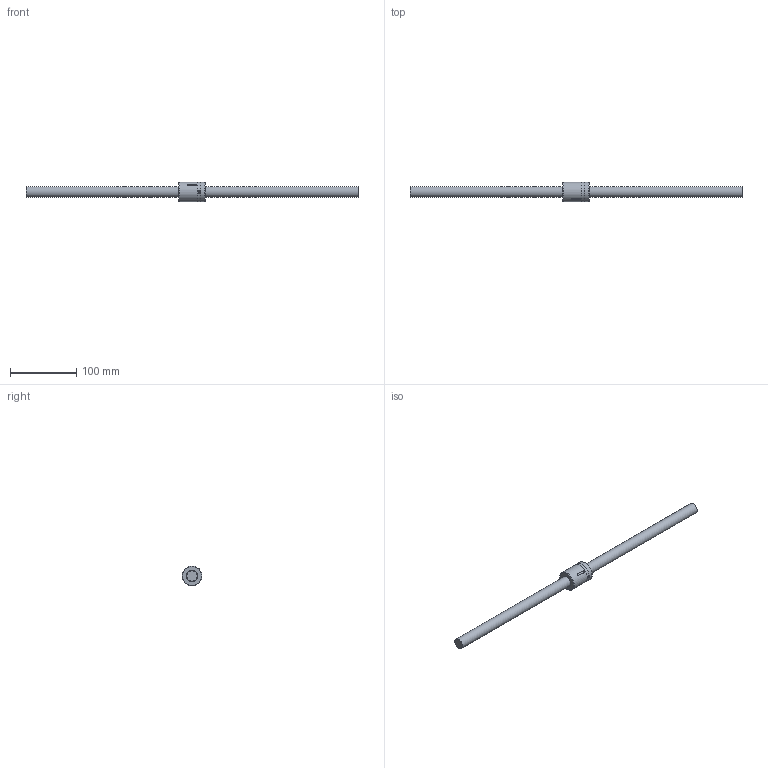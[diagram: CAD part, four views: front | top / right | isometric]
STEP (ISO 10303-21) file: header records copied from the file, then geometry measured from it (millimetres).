
FILE_DESCRIPTION (( 'STEP AP203' ), '1' );
FILE_NAME ('SCI01604-4.step', '2024-05-23T08:29:24', ( '' ), ( '' ), 'SwSTEP 2.0', 'SolidWorks 2022', '' );
FILE_SCHEMA (( 'CONFIG_CONTROL_DESIGN' ));
Length unit declared in the file: millimetre
Products named in the file (1): SCI01604-4
Bounding box: 500 x 30 x 30 mm (x, y, z)
Volume: 118861 mm3; surface area: 32456.6 mm2
Topology: 2 solids, 2 shells, 17 faces, 35 edges, 23 vertices
Faces by surface type: cylinder 7, plane 7, torus 3
Full cylindrical faces by diameter (mm): 3.5 x1, 16 x1, 17.6 x1, 30 x2
Entity records: 619 total; most frequent: CARTESIAN_POINT 220, DIRECTION 68, ORIENTED_EDGE 48, AXIS2_PLACEMENT_3D 30, EDGE_LOOP 30, FACE_OUTER_BOUND 25, EDGE_CURVE 24, VERTEX_POINT 20
